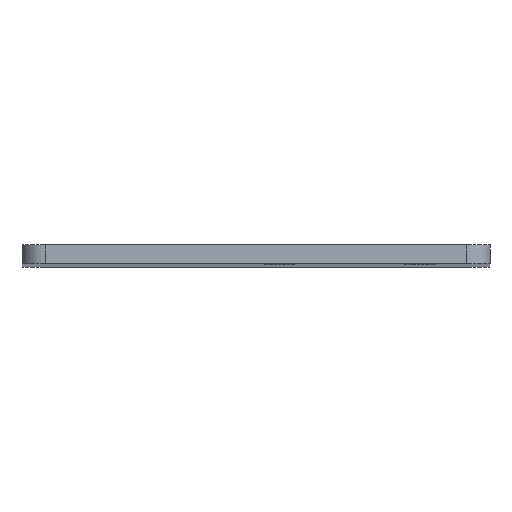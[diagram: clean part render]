
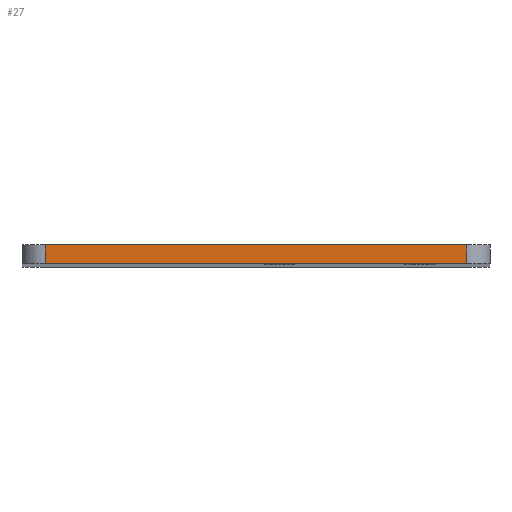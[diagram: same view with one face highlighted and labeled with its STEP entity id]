
A CAD part, top view. The second image highlights one B-rep face of the part: STEP entity #27.
In plain terms, the highlighted planar face has unit normal (0, 0, 1).
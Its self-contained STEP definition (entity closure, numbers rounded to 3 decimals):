
#17 = ORIENTED_EDGE ( 'NONE', *, *, #233, .T. ) ;
#27 = ADVANCED_FACE ( 'NONE', ( #392 ), #642, .F. ) ;
#104 = LINE ( 'NONE', #711, #199 ) ;
#162 = DIRECTION ( 'NONE',  ( -1., 0., 0. ) ) ;
#164 = VECTOR ( 'NONE', #707, 1000. ) ;
#181 = CARTESIAN_POINT ( 'NONE',  ( -310.708, 0., 264.194 ) ) ;
#198 = DIRECTION ( 'NONE',  ( 1., 0., 0. ) ) ;
#199 = VECTOR ( 'NONE', #644, 1000. ) ;
#213 = CARTESIAN_POINT ( 'NONE',  ( -310.708, 4., 264.194 ) ) ;
#233 = EDGE_CURVE ( 'NONE', #715, #679, #536, .T. ) ;
#262 = CARTESIAN_POINT ( 'NONE',  ( -315.708, 4., 264.194 ) ) ;
#306 = DIRECTION ( 'NONE',  ( 0., 1., 0. ) ) ;
#320 = EDGE_CURVE ( 'NONE', #333, #679, #567, .T. ) ;
#333 = VERTEX_POINT ( 'NONE', #213 ) ;
#361 = CARTESIAN_POINT ( 'NONE',  ( -220.708, 4., 264.194 ) ) ;
#387 = CARTESIAN_POINT ( 'NONE',  ( -220.708, 0., 264.194 ) ) ;
#391 = CARTESIAN_POINT ( 'NONE',  ( -310.708, 4., 264.194 ) ) ;
#392 = FACE_OUTER_BOUND ( 'NONE', #777, .T. ) ;
#416 = VECTOR ( 'NONE', #306, 1000. ) ;
#477 = EDGE_CURVE ( 'NONE', #656, #715, #104, .T. ) ;
#486 = ORIENTED_EDGE ( 'NONE', *, *, #487, .T. ) ;
#487 = EDGE_CURVE ( 'NONE', #333, #656, #588, .T. ) ;
#528 = DIRECTION ( 'NONE',  ( 0., 0., -1. ) ) ;
#536 = LINE ( 'NONE', #543, #416 ) ;
#540 = ORIENTED_EDGE ( 'NONE', *, *, #477, .T. ) ;
#542 = AXIS2_PLACEMENT_3D ( 'NONE', #582, #528, #162 ) ;
#543 = CARTESIAN_POINT ( 'NONE',  ( -220.708, 4., 264.194 ) ) ;
#567 = LINE ( 'NONE', #262, #617 ) ;
#582 = CARTESIAN_POINT ( 'NONE',  ( -315.708, 4., 264.194 ) ) ;
#588 = LINE ( 'NONE', #391, #164 ) ;
#617 = VECTOR ( 'NONE', #198, 1000. ) ;
#642 = PLANE ( 'NONE',  #542 ) ;
#644 = DIRECTION ( 'NONE',  ( 1., 0., 0. ) ) ;
#656 = VERTEX_POINT ( 'NONE', #181 ) ;
#679 = VERTEX_POINT ( 'NONE', #361 ) ;
#707 = DIRECTION ( 'NONE',  ( 0., -1., 0. ) ) ;
#711 = CARTESIAN_POINT ( 'NONE',  ( -315.708, 0., 264.194 ) ) ;
#715 = VERTEX_POINT ( 'NONE', #387 ) ;
#742 = ORIENTED_EDGE ( 'NONE', *, *, #320, .F. ) ;
#777 = EDGE_LOOP ( 'NONE', ( #742, #486, #540, #17 ) ) ;
